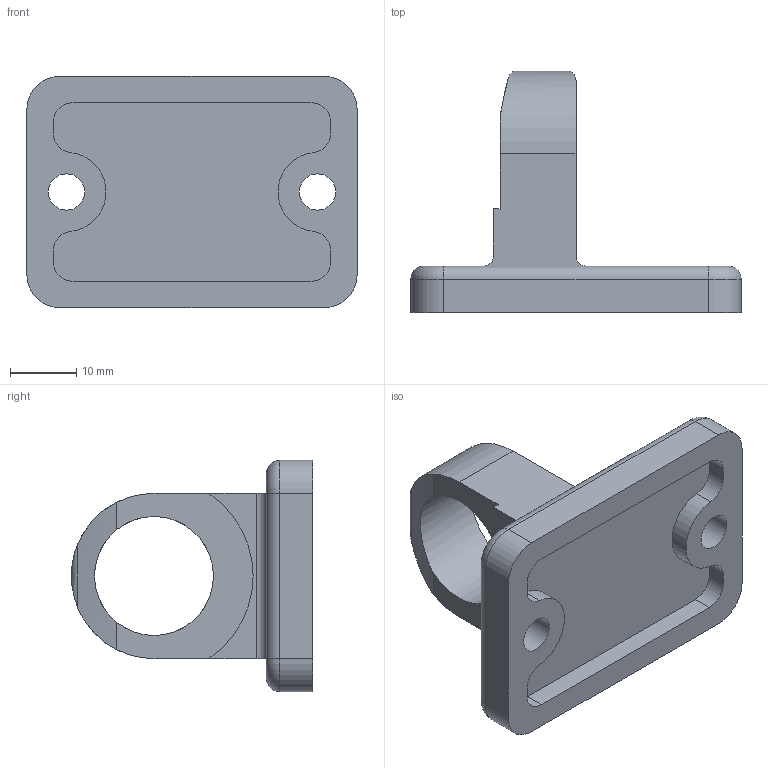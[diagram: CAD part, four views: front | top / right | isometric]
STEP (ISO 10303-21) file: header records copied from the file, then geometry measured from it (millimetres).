
FILE_DESCRIPTION( ( 'STEP AP203' ), '1' );
FILE_NAME( 'C:/Temp/Ganter_Step_05_03_2020/data/3_7/gn271_4/Sensor holder GN 271.4-B18-25-SW.stp', '2020-03-12T14:40:23', ( 'License CC BY-ND 4.0' ), ( 'CADENAS' ), ' ', 'PARTsolutions', ' ' );
FILE_SCHEMA( ( 'CONFIG_CONTROL_DESIGN' ) );
Length unit declared in the file: millimetre
Products named in the file (1): _Sensor holder GN 271.4-B18-25-SW
Bounding box: 50 x 36.5 x 35 mm (x, y, z)
Volume: 13608 mm3; surface area: 7035.4 mm2
Topology: 1 solids, 1 shells, 50 faces, 133 edges, 86 vertices
Faces by surface type: cylinder 28, plane 18, torus 4
Full cylindrical faces by diameter (mm): 5.5 x2, 18 x1
Entity records: 1668 total; most frequent: CARTESIAN_POINT 342, DIRECTION 282, ORIENTED_EDGE 258, EDGE_CURVE 129, AXIS2_PLACEMENT_3D 107, VERTEX_POINT 85, LINE 68, VECTOR 68
